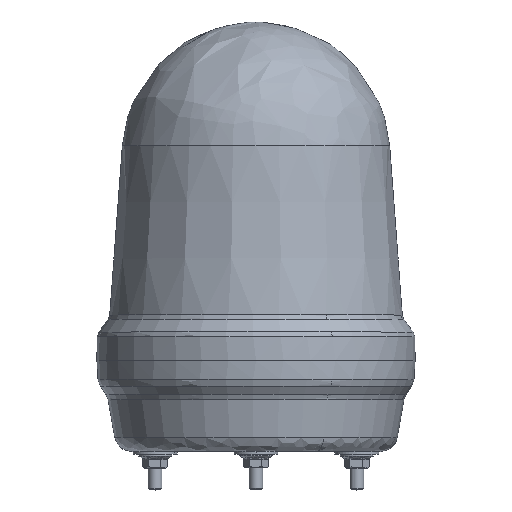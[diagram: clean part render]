
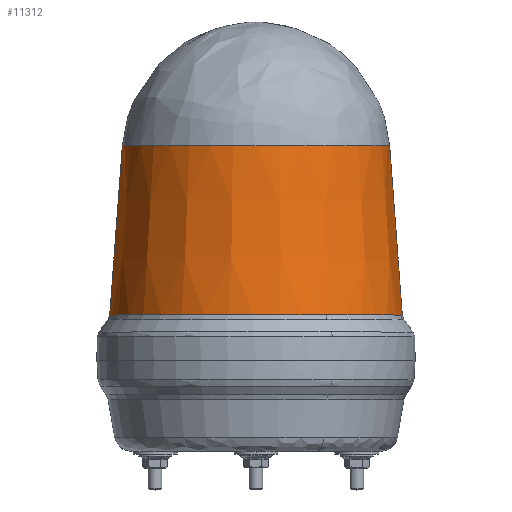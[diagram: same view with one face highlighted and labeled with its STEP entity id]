
A CAD part, top view. The second image highlights one B-rep face of the part: STEP entity #11312.
In plain terms, the highlighted conical face has half-angle 4.285 degrees and reference radius 53.376 mm.
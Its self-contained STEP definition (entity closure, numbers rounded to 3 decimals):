
#545 = ORIENTED_EDGE ( 'NONE', *, *, #571, .T. ) ;
#571 = EDGE_CURVE ( 'NONE', #12844, #10836, #8377, .T. ) ;
#812 = CARTESIAN_POINT ( 'NONE',  ( -57.627, -23.831, 98.367 ) ) ;
#1230 = DIRECTION ( 'NONE',  ( -1., 0., 0. ) ) ;
#1901 = CARTESIAN_POINT ( 'NONE',  ( -57.627, -23.831, 98.367 ) ) ;
#1940 = DIRECTION ( 'NONE',  ( -1., 0., 0. ) ) ;
#2448 = VERTEX_POINT ( 'NONE', #812 ) ;
#2482 = AXIS2_PLACEMENT_3D ( 'NONE', #6576, #5760, #5826 ) ;
#2722 = LINE ( 'NONE', #9015, #2782 ) ;
#2761 = EDGE_CURVE ( 'NONE', #13008, #10836, #2722, .T. ) ;
#2782 = VECTOR ( 'NONE', #11828, 1000. ) ;
#3542 = CARTESIAN_POINT ( 'NONE',  ( -53.001, 37.911, 98.367 ) ) ;
#3701 = CARTESIAN_POINT ( 'NONE',  ( 21.339, -23.831, 145.209 ) ) ;
#3930 = CARTESIAN_POINT ( 'NONE',  ( 49.125, -23.831, 98.367 ) ) ;
#4165 = VERTEX_POINT ( 'NONE', #3542 ) ;
#4586 = CARTESIAN_POINT ( 'NONE',  ( -4.251, -23.831, 98.367 ) ) ;
#4811 = FACE_OUTER_BOUND ( 'NONE', #5225, .T. ) ;
#5225 = EDGE_LOOP ( 'NONE', ( #6149, #7949, #6048, #9951, #545 ) ) ;
#5237 = CARTESIAN_POINT ( 'NONE',  ( 44.499, 37.911, 98.367 ) ) ;
#5356 = AXIS2_PLACEMENT_3D ( 'NONE', #4586, #10825, #5529 ) ;
#5529 = DIRECTION ( 'NONE',  ( 0.479, 0., 0.878 ) ) ;
#5760 = DIRECTION ( 'NONE',  ( 0., 1., 0. ) ) ;
#5826 = DIRECTION ( 'NONE',  ( 0.479, 0., 0.878 ) ) ;
#5968 = EDGE_CURVE ( 'NONE', #2448, #12844, #12658, .T. ) ;
#6048 = ORIENTED_EDGE ( 'NONE', *, *, #11811, .T. ) ;
#6149 = ORIENTED_EDGE ( 'NONE', *, *, #2761, .F. ) ;
#6576 = CARTESIAN_POINT ( 'NONE',  ( -4.251, -23.831, 98.367 ) ) ;
#6706 = AXIS2_PLACEMENT_3D ( 'NONE', #8987, #7987, #1940 ) ;
#7182 = VECTOR ( 'NONE', #8285, 1000. ) ;
#7343 = LINE ( 'NONE', #1901, #7182 ) ;
#7744 = EDGE_CURVE ( 'NONE', #13008, #4165, #12687, .T. ) ;
#7949 = ORIENTED_EDGE ( 'NONE', *, *, #7744, .T. ) ;
#7987 = DIRECTION ( 'NONE',  ( 0., -1., 0. ) ) ;
#8285 = DIRECTION ( 'NONE',  ( -0.075, -0.997, 0. ) ) ;
#8377 = CIRCLE ( 'NONE', #5356, 53.376 ) ;
#8783 = AXIS2_PLACEMENT_3D ( 'NONE', #10615, #11766, #1230 ) ;
#8987 = CARTESIAN_POINT ( 'NONE',  ( -4.251, -23.831, 98.367 ) ) ;
#9015 = CARTESIAN_POINT ( 'NONE',  ( 49.125, -23.831, 98.367 ) ) ;
#9275 = CONICAL_SURFACE ( 'NONE', #6706, 53.376, 0.075 ) ;
#9951 = ORIENTED_EDGE ( 'NONE', *, *, #5968, .T. ) ;
#10615 = CARTESIAN_POINT ( 'NONE',  ( -4.251, 37.911, 98.367 ) ) ;
#10825 = DIRECTION ( 'NONE',  ( 0., 1., 0. ) ) ;
#10836 = VERTEX_POINT ( 'NONE', #3930 ) ;
#11312 = ADVANCED_FACE ( 'NONE', ( #4811 ), #9275, .T. ) ;
#11766 = DIRECTION ( 'NONE',  ( 0., -1., 0. ) ) ;
#11811 = EDGE_CURVE ( 'NONE', #4165, #2448, #7343, .T. ) ;
#11828 = DIRECTION ( 'NONE',  ( 0.075, -0.997, 0. ) ) ;
#12658 = CIRCLE ( 'NONE', #2482, 53.376 ) ;
#12687 = CIRCLE ( 'NONE', #8783, 48.75 ) ;
#12844 = VERTEX_POINT ( 'NONE', #3701 ) ;
#13008 = VERTEX_POINT ( 'NONE', #5237 ) ;
